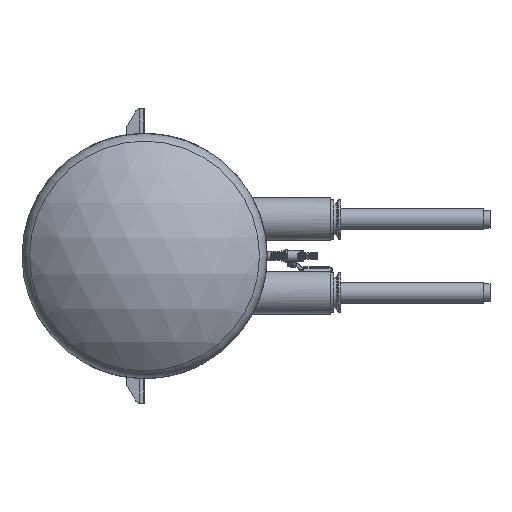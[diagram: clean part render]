
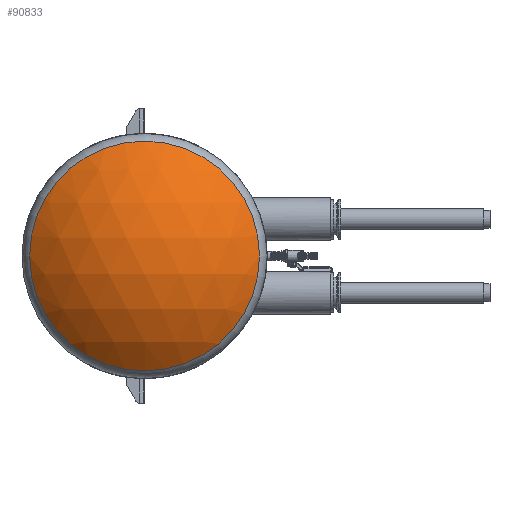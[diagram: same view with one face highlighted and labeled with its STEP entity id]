
A CAD part, left-side view. The second image highlights one B-rep face of the part: STEP entity #90833.
In plain terms, the highlighted spherical face has radius 346.109 mm.
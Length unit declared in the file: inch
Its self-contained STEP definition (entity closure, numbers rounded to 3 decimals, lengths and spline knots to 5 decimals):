
#44704 = SPHERICAL_SURFACE ( 'NONE', #129672, 13.62635 ) ;
#54748 = DIRECTION ( 'NONE',  ( 0., 0., -1. ) ) ;
#55613 = CARTESIAN_POINT ( 'NONE',  ( -51.01125, 0., 0. ) ) ;
#58935 = AXIS2_PLACEMENT_3D ( 'NONE', #55613, #70728, #54748 ) ;
#68771 = FACE_OUTER_BOUND ( 'NONE', #176153, .T. ) ;
#70728 = DIRECTION ( 'NONE',  ( 1., 0., 0. ) ) ;
#75230 = CARTESIAN_POINT ( 'NONE',  ( -51.01125, 0., -9.37618 ) ) ;
#76993 = VERTEX_POINT ( 'NONE', #75230 ) ;
#82535 = ORIENTED_EDGE ( 'NONE', *, *, #154669, .F. ) ;
#84778 = DIRECTION ( 'NONE',  ( 0., 0., 1. ) ) ;
#90833 = ADVANCED_FACE ( 'NONE', ( #68771 ), #44704, .T. ) ;
#107235 = CIRCLE ( 'NONE', #58935, 9.37618 ) ;
#129672 = AXIS2_PLACEMENT_3D ( 'NONE', #164024, #84778, #151564 ) ;
#151564 = DIRECTION ( 'NONE',  ( 0., 1., 0. ) ) ;
#154669 = EDGE_CURVE ( 'NONE', #76993, #76993, #107235, .T. ) ;
#164024 = CARTESIAN_POINT ( 'NONE',  ( -41.12365, 0., 0. ) ) ;
#176153 = EDGE_LOOP ( 'NONE', ( #82535 ) ) ;
